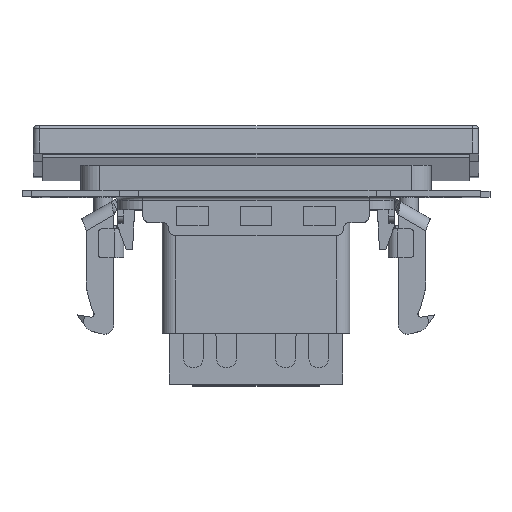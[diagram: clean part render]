
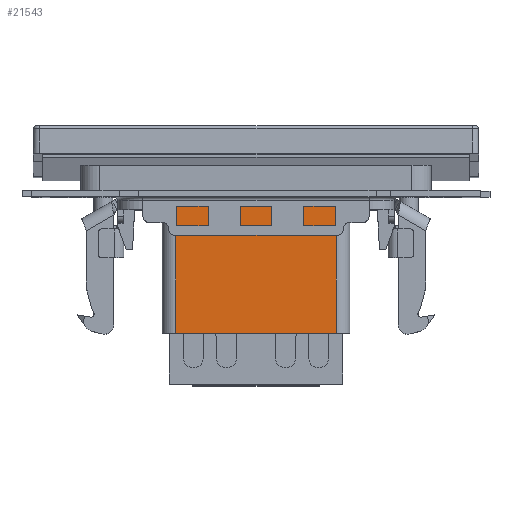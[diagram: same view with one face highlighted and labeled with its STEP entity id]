
A CAD part, top view. The second image highlights one B-rep face of the part: STEP entity #21543.
In plain terms, the highlighted planar face has unit normal (0, 0, 1).
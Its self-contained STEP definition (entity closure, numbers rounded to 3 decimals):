
#2117 = DIRECTION ( 'NONE',  ( -1., 0., 0. ) ) ;
#4055 = ORIENTED_EDGE ( 'NONE', *, *, #9576, .T. ) ;
#5729 = VECTOR ( 'NONE', #52159, 1000. ) ;
#6625 = CARTESIAN_POINT ( 'NONE',  ( 64.254, 49.018, 56.477 ) ) ;
#7845 = DIRECTION ( 'NONE',  ( 0., -1., 0. ) ) ;
#7891 = VECTOR ( 'NONE', #7845, 1000. ) ;
#8088 = CARTESIAN_POINT ( 'NONE',  ( 64.254, 26.618, 56.477 ) ) ;
#8599 = FACE_OUTER_BOUND ( 'NONE', #53237, .T. ) ;
#9358 = LINE ( 'NONE', #23823, #48928 ) ;
#9576 = EDGE_CURVE ( 'NONE', #24168, #22035, #34341, .T. ) ;
#10007 = EDGE_CURVE ( 'NONE', #10211, #24168, #9358, .T. ) ;
#10211 = VERTEX_POINT ( 'NONE', #45205 ) ;
#12853 = VECTOR ( 'NONE', #2117, 1000. ) ;
#15636 = CARTESIAN_POINT ( 'NONE',  ( 64.254, 49.018, 56.477 ) ) ;
#21030 = ORIENTED_EDGE ( 'NONE', *, *, #22241, .F. ) ;
#21543 = ADVANCED_FACE ( 'NONE', ( #8599 ), #40617, .F. ) ;
#22035 = VERTEX_POINT ( 'NONE', #8088 ) ;
#22241 = EDGE_CURVE ( 'NONE', #27936, #22035, #49035, .T. ) ;
#22726 = EDGE_CURVE ( 'NONE', #27936, #10211, #39030, .T. ) ;
#23823 = CARTESIAN_POINT ( 'NONE',  ( 39.054, 48.818, 56.477 ) ) ;
#24168 = VERTEX_POINT ( 'NONE', #27211 ) ;
#25704 = CARTESIAN_POINT ( 'NONE',  ( 64.254, 48.818, 56.477 ) ) ;
#27211 = CARTESIAN_POINT ( 'NONE',  ( 39.054, 26.618, 56.477 ) ) ;
#27936 = VERTEX_POINT ( 'NONE', #6625 ) ;
#28137 = DIRECTION ( 'NONE',  ( 0., -1., 0. ) ) ;
#34341 = LINE ( 'NONE', #53055, #5729 ) ;
#36916 = CARTESIAN_POINT ( 'NONE',  ( 64.254, 48.818, 56.477 ) ) ;
#39030 = LINE ( 'NONE', #15636, #12853 ) ;
#40617 = PLANE ( 'NONE',  #55963 ) ;
#41210 = DIRECTION ( 'NONE',  ( -1., 0., 0. ) ) ;
#44970 = ORIENTED_EDGE ( 'NONE', *, *, #10007, .T. ) ;
#45205 = CARTESIAN_POINT ( 'NONE',  ( 39.054, 49.018, 56.477 ) ) ;
#48500 = ORIENTED_EDGE ( 'NONE', *, *, #22726, .T. ) ;
#48928 = VECTOR ( 'NONE', #28137, 1000. ) ;
#49035 = LINE ( 'NONE', #25704, #7891 ) ;
#52159 = DIRECTION ( 'NONE',  ( 1., 0., 0. ) ) ;
#53055 = CARTESIAN_POINT ( 'NONE',  ( 64.254, 26.618, 56.477 ) ) ;
#53237 = EDGE_LOOP ( 'NONE', ( #21030, #48500, #44970, #4055 ) ) ;
#55963 = AXIS2_PLACEMENT_3D ( 'NONE', #36916, #60289, #41210 ) ;
#60289 = DIRECTION ( 'NONE',  ( 0., 0., -1. ) ) ;
